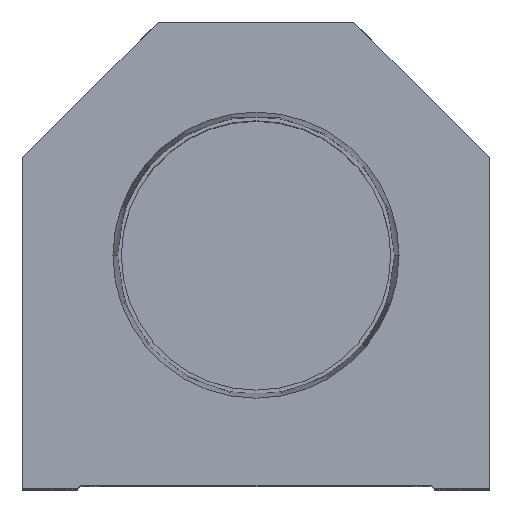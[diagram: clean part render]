
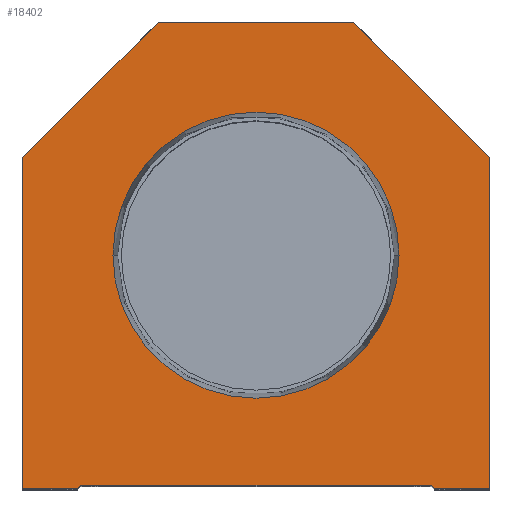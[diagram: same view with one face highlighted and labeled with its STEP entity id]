
A CAD part, top view. The second image highlights one B-rep face of the part: STEP entity #18402.
In plain terms, the highlighted planar face has unit normal (0, 0, 1).
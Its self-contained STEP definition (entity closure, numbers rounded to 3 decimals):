
#161 = ORIENTED_EDGE ( 'NONE', *, *, #7377, .T. ) ;
#235 = CARTESIAN_POINT ( 'NONE',  ( 28.6, 0.5, 0. ) ) ;
#484 = VERTEX_POINT ( 'NONE', #17796 ) ;
#1143 = VECTOR ( 'NONE', #7202, 1000. ) ;
#1244 = LINE ( 'NONE', #7298, #3184 ) ;
#1328 = CARTESIAN_POINT ( 'NONE',  ( -28.6, 0., 0. ) ) ;
#1616 = ORIENTED_EDGE ( 'NONE', *, *, #4184, .T. ) ;
#1665 = EDGE_LOOP ( 'NONE', ( #17105, #18492, #13189, #2051, #13840, #3575, #161, #1616, #17138, #2379 ) ) ;
#1751 = DIRECTION ( 'NONE',  ( 1., 0., 0. ) ) ;
#1752 = CARTESIAN_POINT ( 'NONE',  ( 38.1, 0., 0. ) ) ;
#1840 = DIRECTION ( 'NONE',  ( 0., 1., 0. ) ) ;
#1876 = CARTESIAN_POINT ( 'NONE',  ( -28.6, 0.5, 0. ) ) ;
#2051 = ORIENTED_EDGE ( 'NONE', *, *, #14302, .T. ) ;
#2379 = ORIENTED_EDGE ( 'NONE', *, *, #8683, .T. ) ;
#3067 = CARTESIAN_POINT ( 'NONE',  ( 0., 0., 0. ) ) ;
#3184 = VECTOR ( 'NONE', #5908, 1000. ) ;
#3216 = EDGE_CURVE ( 'NONE', #11175, #14570, #9912, .T. ) ;
#3232 = LINE ( 'NONE', #1752, #16906 ) ;
#3266 = DIRECTION ( 'NONE',  ( 1., 0., 0. ) ) ;
#3328 = CARTESIAN_POINT ( 'NONE',  ( 0., 38.1, 0. ) ) ;
#3461 = FACE_BOUND ( 'NONE', #9537, .T. ) ;
#3575 = ORIENTED_EDGE ( 'NONE', *, *, #13342, .T. ) ;
#3612 = CARTESIAN_POINT ( 'NONE',  ( 38.1, 0., 0. ) ) ;
#3999 = CARTESIAN_POINT ( 'NONE',  ( -38.1, 0., 0. ) ) ;
#4165 = CARTESIAN_POINT ( 'NONE',  ( -16., 76.2, 0. ) ) ;
#4184 = EDGE_CURVE ( 'NONE', #15685, #16402, #14500, .T. ) ;
#4389 = AXIS2_PLACEMENT_3D ( 'NONE', #3328, #7430, #1751 ) ;
#4752 = VERTEX_POINT ( 'NONE', #18113 ) ;
#4856 = FACE_OUTER_BOUND ( 'NONE', #1665, .T. ) ;
#4996 = CARTESIAN_POINT ( 'NONE',  ( -29.1, 0., 0. ) ) ;
#5016 = CARTESIAN_POINT ( 'NONE',  ( -23.374, 38.1, 0. ) ) ;
#5363 = DIRECTION ( 'NONE',  ( 1., 0., 0. ) ) ;
#5388 = CARTESIAN_POINT ( 'NONE',  ( 23.374, 38.1, 0. ) ) ;
#5908 = DIRECTION ( 'NONE',  ( 0.707, -0.707, 0. ) ) ;
#6674 = LINE ( 'NONE', #8327, #17535 ) ;
#6969 = VERTEX_POINT ( 'NONE', #5016 ) ;
#7202 = DIRECTION ( 'NONE',  ( -0.707, -0.707, 0. ) ) ;
#7298 = CARTESIAN_POINT ( 'NONE',  ( 14.55, 14.55, 0. ) ) ;
#7331 = EDGE_CURVE ( 'NONE', #8403, #9546, #14704, .T. ) ;
#7377 = EDGE_CURVE ( 'NONE', #4752, #15685, #10192, .T. ) ;
#7401 = CARTESIAN_POINT ( 'NONE',  ( 28.6, 0., 0. ) ) ;
#7430 = DIRECTION ( 'NONE',  ( 0., 0., 1. ) ) ;
#7670 = VECTOR ( 'NONE', #5363, 1000. ) ;
#8270 = VECTOR ( 'NONE', #17747, 1000. ) ;
#8325 = EDGE_CURVE ( 'NONE', #15217, #6969, #12911, .T. ) ;
#8327 = CARTESIAN_POINT ( 'NONE',  ( -14.55, 14.55, 0. ) ) ;
#8332 = VECTOR ( 'NONE', #16168, 1000. ) ;
#8403 = VERTEX_POINT ( 'NONE', #13454 ) ;
#8683 = EDGE_CURVE ( 'NONE', #15617, #8403, #17096, .T. ) ;
#9207 = PLANE ( 'NONE',  #11308 ) ;
#9537 = EDGE_LOOP ( 'NONE', ( #9614, #15818 ) ) ;
#9546 = VERTEX_POINT ( 'NONE', #4996 ) ;
#9614 = ORIENTED_EDGE ( 'NONE', *, *, #8325, .F. ) ;
#9906 = DIRECTION ( 'NONE',  ( 0., -1., 0. ) ) ;
#9912 = LINE ( 'NONE', #18667, #7670 ) ;
#10192 = LINE ( 'NONE', #16184, #13827 ) ;
#10394 = CARTESIAN_POINT ( 'NONE',  ( 16., 76.2, 0. ) ) ;
#10804 = EDGE_CURVE ( 'NONE', #16402, #15617, #14914, .T. ) ;
#11175 = VERTEX_POINT ( 'NONE', #1876 ) ;
#11308 = AXIS2_PLACEMENT_3D ( 'NONE', #3067, #18033, #3266 ) ;
#11408 = DIRECTION ( 'NONE',  ( 0.707, 0.707, 0. ) ) ;
#12375 = EDGE_CURVE ( 'NONE', #6969, #15217, #14048, .T. ) ;
#12561 = CARTESIAN_POINT ( 'NONE',  ( -38.1, 54.1, 0. ) ) ;
#12911 = CIRCLE ( 'NONE', #18886, 23.374 ) ;
#12963 = DIRECTION ( 'NONE',  ( 0., 0., 1. ) ) ;
#13189 = ORIENTED_EDGE ( 'NONE', *, *, #3216, .T. ) ;
#13342 = EDGE_CURVE ( 'NONE', #15618, #4752, #3232, .T. ) ;
#13454 = CARTESIAN_POINT ( 'NONE',  ( -38.1, 0., 0. ) ) ;
#13827 = VECTOR ( 'NONE', #16270, 1000. ) ;
#13840 = ORIENTED_EDGE ( 'NONE', *, *, #18915, .T. ) ;
#14048 = CIRCLE ( 'NONE', #4389, 23.374 ) ;
#14062 = DIRECTION ( 'NONE',  ( 1., 0., 0. ) ) ;
#14188 = VECTOR ( 'NONE', #19338, 1000. ) ;
#14302 = EDGE_CURVE ( 'NONE', #14570, #484, #1244, .T. ) ;
#14500 = LINE ( 'NONE', #17547, #8332 ) ;
#14570 = VERTEX_POINT ( 'NONE', #235 ) ;
#14704 = LINE ( 'NONE', #1328, #8270 ) ;
#14914 = LINE ( 'NONE', #19059, #1143 ) ;
#15081 = EDGE_CURVE ( 'NONE', #9546, #11175, #6674, .T. ) ;
#15217 = VERTEX_POINT ( 'NONE', #5388 ) ;
#15617 = VERTEX_POINT ( 'NONE', #12561 ) ;
#15618 = VERTEX_POINT ( 'NONE', #3612 ) ;
#15685 = VERTEX_POINT ( 'NONE', #10394 ) ;
#15818 = ORIENTED_EDGE ( 'NONE', *, *, #12375, .F. ) ;
#16168 = DIRECTION ( 'NONE',  ( -1., 0., 0. ) ) ;
#16184 = CARTESIAN_POINT ( 'NONE',  ( 38.1, 54.1, 0. ) ) ;
#16270 = DIRECTION ( 'NONE',  ( -0.707, 0.707, 0. ) ) ;
#16361 = VECTOR ( 'NONE', #9906, 1000. ) ;
#16402 = VERTEX_POINT ( 'NONE', #4165 ) ;
#16489 = LINE ( 'NONE', #7401, #14188 ) ;
#16906 = VECTOR ( 'NONE', #1840, 1000. ) ;
#17096 = LINE ( 'NONE', #3999, #16361 ) ;
#17105 = ORIENTED_EDGE ( 'NONE', *, *, #7331, .T. ) ;
#17138 = ORIENTED_EDGE ( 'NONE', *, *, #10804, .T. ) ;
#17535 = VECTOR ( 'NONE', #11408, 1000. ) ;
#17547 = CARTESIAN_POINT ( 'NONE',  ( 16., 76.2, 0. ) ) ;
#17747 = DIRECTION ( 'NONE',  ( 1., 0., 0. ) ) ;
#17796 = CARTESIAN_POINT ( 'NONE',  ( 29.1, 0., 0. ) ) ;
#18033 = DIRECTION ( 'NONE',  ( 0., 0., 1. ) ) ;
#18113 = CARTESIAN_POINT ( 'NONE',  ( 38.1, 54.1, 0. ) ) ;
#18402 = ADVANCED_FACE ( 'NONE', ( #3461, #4856 ), #9207, .T. ) ;
#18492 = ORIENTED_EDGE ( 'NONE', *, *, #15081, .T. ) ;
#18667 = CARTESIAN_POINT ( 'NONE',  ( -28.6, 0.5, 0. ) ) ;
#18686 = CARTESIAN_POINT ( 'NONE',  ( 0., 38.1, 0. ) ) ;
#18886 = AXIS2_PLACEMENT_3D ( 'NONE', #18686, #12963, #14062 ) ;
#18915 = EDGE_CURVE ( 'NONE', #484, #15618, #16489, .T. ) ;
#19059 = CARTESIAN_POINT ( 'NONE',  ( -38.1, 54.1, 0. ) ) ;
#19338 = DIRECTION ( 'NONE',  ( 1., 0., 0. ) ) ;
